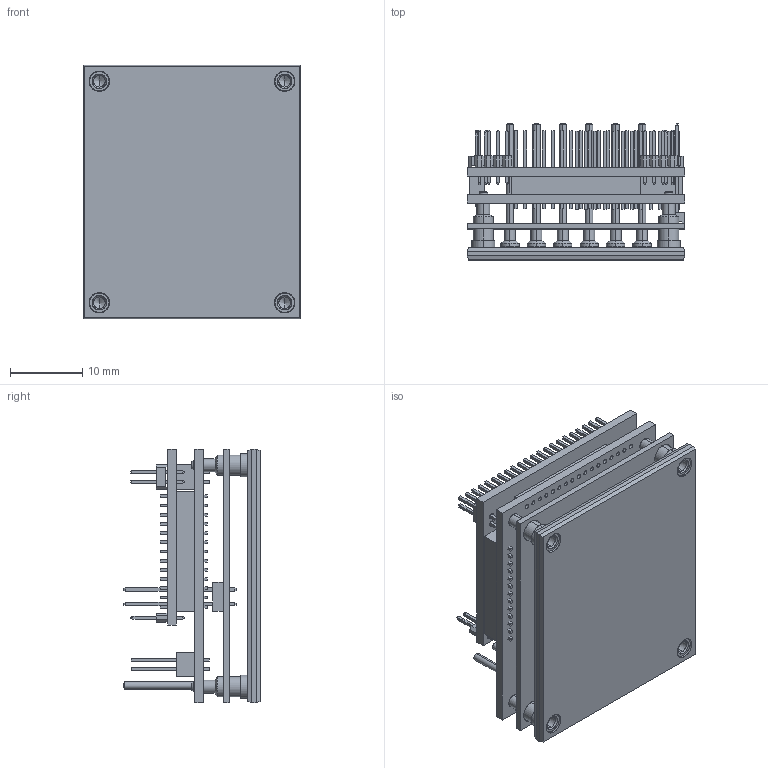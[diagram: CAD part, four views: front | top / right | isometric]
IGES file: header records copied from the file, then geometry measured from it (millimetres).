
Start section: SolidWorks IGES file using analytic representation for surfaces
Global section: file name: P:\Products\SimpllQ2\Hardware\G-TWI\ENG\SOLID__SRC\ASS S WHI-ETHERCAT1.IGS; native system: SolidWorks 2013; preprocessor: SolidWorks 2013; author: mariand; date: 141007.094628; units: millimetre
Bounding box: 30 x 18.84 x 35 mm (x, y, z)
Surface area: 11324.8 mm2 (no closed solid volume)
Topology: 0 solids, 0 shells, 2806 faces, 20478 edges, 20470 vertices
Faces by surface type: bspline 1948, revolution 858
